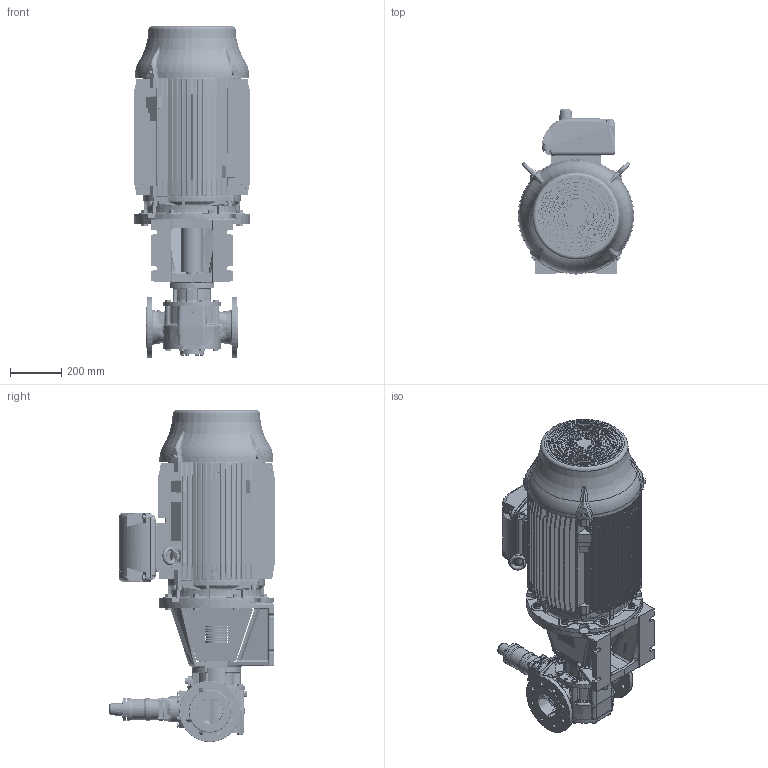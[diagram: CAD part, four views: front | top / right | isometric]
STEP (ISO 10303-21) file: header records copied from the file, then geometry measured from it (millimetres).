
FILE_DESCRIPTION(/* description */ (''),/* implementation_level */ '2;1');
FILE_NAME(/* name */ 'C:\V\JPP\Designs\GEAR PUMPS\PRODUCT ENGINEERING\EUROPE\TG BLOC\TG BLOC_86-100_R5_O_RV1-_225-STEP.stp',/* time_stamp */ '2021-03-19T15:29:42+01:00',/* author */ ('A77THR'),/* organization */ (''),/* preprocessor_version */ 'ST-DEVELOPER v18.1',/* originating_system */ 'Autodesk Inventor 2020',/* authorisation */ '');
FILE_SCHEMA (('AUTOMOTIVE_DESIGN { 1 0 10303 214 3 1 1 }'));
Length unit declared in the file: millimetre
Products named in the file (1): TG BLOC_86-100_R5_O_RV1-_225
Bounding box: 455 x 644.5 x 1291.96 mm (x, y, z)
Volume: 122309847.8 mm3; surface area: 4810209.9 mm2
Topology: 1 solids, 1 shells, 5181 faces, 13703 edges, 8710 vertices
Faces by surface type: plane 2211, cone 1045, bspline 963, cylinder 754, torus 158, sphere 50
Full cylindrical faces by diameter (mm): 4.5 x4, 4.917 x4, 5.459 x4, 6 x4, 6.647 x1, 7 x4, 7.323 x10, 8 x10, 8.7 x4, 9 x12, 9.188 x8, 10 x16, 10.106 x7, 10.2 x2, 11 x8, 11.053 x4, 11.4 x10, 11.445 x2, 12 x4, 13 x1, 13.157 x2, 13.2 x2, 13.835 x8, 14 x8, 14.8 x4, 15.011 x2, 15.4 x8, 17.2 x20, 17.5 x1, 18 x18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
Entity records: 229813 total; most frequent: CARTESIAN_POINT 104167, ORIENTED_EDGE 27208, DIRECTION 22988, EDGE_CURVE 13604, AXIS2_PLACEMENT_3D 8826, VERTEX_POINT 8710, EDGE_LOOP 5642, LINE 5336
